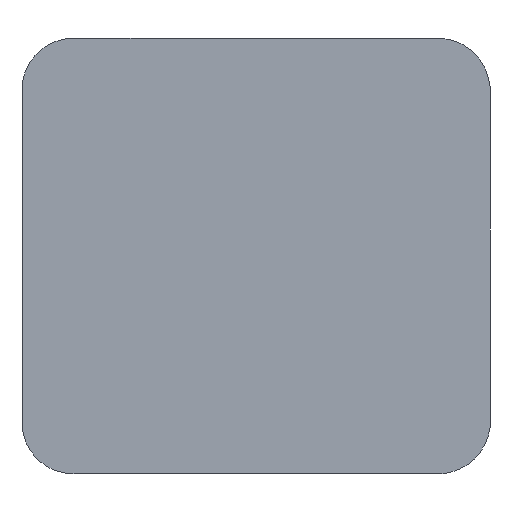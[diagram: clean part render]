
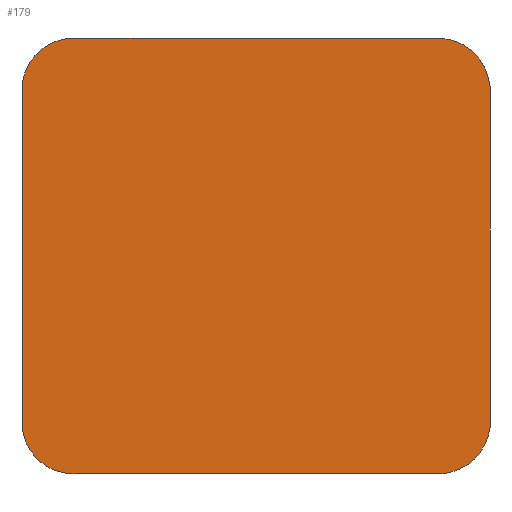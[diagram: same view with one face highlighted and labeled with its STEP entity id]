
A CAD part, front view. The second image highlights one B-rep face of the part: STEP entity #179.
In plain terms, the highlighted planar face has unit normal (0, -1, 0).
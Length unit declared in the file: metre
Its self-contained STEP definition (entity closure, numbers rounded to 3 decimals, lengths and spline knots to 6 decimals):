
#12=CIRCLE('',#195,0.004076);
#14=CIRCLE('',#199,0.00413);
#16=CIRCLE('',#203,0.004127);
#18=CIRCLE('',#207,0.004021);
#64=ORIENTED_EDGE('',*,*,#72,.T.);
#65=ORIENTED_EDGE('',*,*,#94,.F.);
#66=ORIENTED_EDGE('',*,*,#91,.T.);
#67=ORIENTED_EDGE('',*,*,#88,.F.);
#68=ORIENTED_EDGE('',*,*,#85,.T.);
#69=ORIENTED_EDGE('',*,*,#82,.F.);
#70=ORIENTED_EDGE('',*,*,#79,.T.);
#71=ORIENTED_EDGE('',*,*,#76,.F.);
#72=EDGE_CURVE('',#96,#97,#112,.T.);
#76=EDGE_CURVE('',#96,#100,#12,.T.);
#79=EDGE_CURVE('',#102,#100,#117,.T.);
#82=EDGE_CURVE('',#102,#104,#14,.T.);
#85=EDGE_CURVE('',#106,#104,#121,.T.);
#88=EDGE_CURVE('',#106,#108,#16,.T.);
#91=EDGE_CURVE('',#110,#108,#125,.T.);
#94=EDGE_CURVE('',#110,#97,#18,.T.);
#96=VERTEX_POINT('',#268);
#97=VERTEX_POINT('',#269);
#100=VERTEX_POINT('',#277);
#102=VERTEX_POINT('',#283);
#104=VERTEX_POINT('',#289);
#106=VERTEX_POINT('',#295);
#108=VERTEX_POINT('',#301);
#110=VERTEX_POINT('',#307);
#112=LINE('',#267,#128);
#117=LINE('',#282,#133);
#121=LINE('',#294,#137);
#125=LINE('',#306,#141);
#128=VECTOR('',#215,1.);
#133=VECTOR('',#228,1.);
#137=VECTOR('',#240,1.);
#141=VECTOR('',#252,1.);
#153=EDGE_LOOP('',(#64,#65,#66,#67,#68,#69,#70,#71));
#163=FACE_BOUND('',#153,.T.);
#169=PLANE('',#210);
#179=ADVANCED_FACE('',(#163),#169,.F.);
#195=AXIS2_PLACEMENT_3D('',#276,#221,#222);
#199=AXIS2_PLACEMENT_3D('',#288,#233,#234);
#203=AXIS2_PLACEMENT_3D('',#300,#245,#246);
#207=AXIS2_PLACEMENT_3D('',#312,#257,#258);
#210=AXIS2_PLACEMENT_3D('',#315,#263,#264);
#215=DIRECTION('',(0.,0.,-1.));
#221=DIRECTION('',(0.,1.,0.));
#222=DIRECTION('',(-0.996,0.,0.091));
#228=DIRECTION('',(-1.,0.,0.));
#233=DIRECTION('',(0.,1.,0.));
#234=DIRECTION('',(0.023,0.,1.));
#240=DIRECTION('',(0.,0.,1.));
#245=DIRECTION('',(0.,1.,0.));
#246=DIRECTION('',(0.993,0.,-0.117));
#252=DIRECTION('',(1.,0.,0.));
#257=DIRECTION('',(0.,1.,0.));
#258=DIRECTION('',(-0.026,0.,-1.));
#263=DIRECTION('',(0.,1.,0.));
#264=DIRECTION('',(1.,0.,0.));
#267=CARTESIAN_POINT('',(0.158031,0.00971,0.095186));
#268=CARTESIAN_POINT('',(0.158031,0.00971,0.108473));
#269=CARTESIAN_POINT('',(0.158031,0.00971,0.081899));
#276=CARTESIAN_POINT('',(0.16209,0.00971,0.108101));
#277=CARTESIAN_POINT('',(0.161852,0.00971,0.112169));
#282=CARTESIAN_POINT('',(0.17622,0.00971,0.112169));
#283=CARTESIAN_POINT('',(0.190588,0.00971,0.112169));
#288=CARTESIAN_POINT('',(0.190492,0.00971,0.108041));
#289=CARTESIAN_POINT('',(0.194608,0.00971,0.108377));
#294=CARTESIAN_POINT('',(0.194608,0.00971,0.095068));
#295=CARTESIAN_POINT('',(0.194608,0.00971,0.081759));
#300=CARTESIAN_POINT('',(0.190509,0.00971,0.082244));
#301=CARTESIAN_POINT('',(0.190849,0.00971,0.07813));
#306=CARTESIAN_POINT('',(0.176394,0.00971,0.07813));
#307=CARTESIAN_POINT('',(0.161939,0.00971,0.07813));
#312=CARTESIAN_POINT('',(0.162045,0.00971,0.08215));
#315=CARTESIAN_POINT('',(0.17632,0.00971,0.09515));
